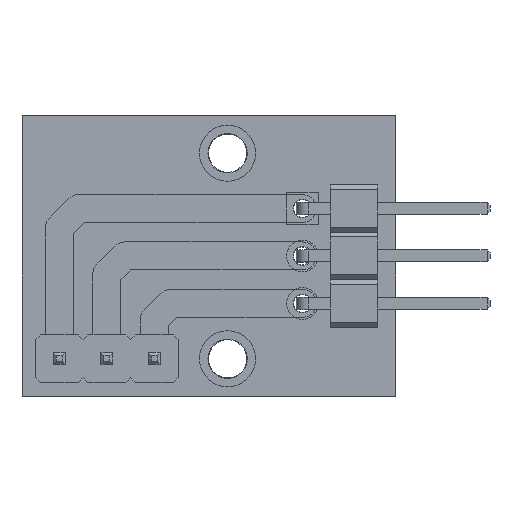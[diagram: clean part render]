
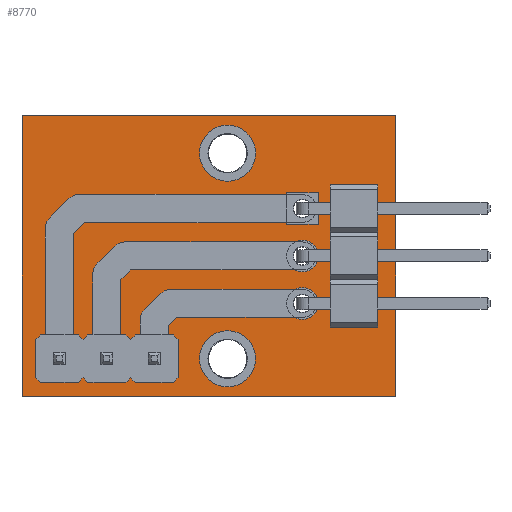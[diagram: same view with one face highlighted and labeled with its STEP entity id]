
A CAD part, top view. The second image highlights one B-rep face of the part: STEP entity #8770.
In plain terms, the highlighted planar face has unit normal (0, 0, 1).
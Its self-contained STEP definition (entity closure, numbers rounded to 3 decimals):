
#8570 = VERTEX_POINT('',#8571);
#8571 = CARTESIAN_POINT('',(124.,-97.,1.51));
#8577 = EDGE_CURVE('',#8570,#8578,#8580,.T.);
#8578 = VERTEX_POINT('',#8579);
#8579 = CARTESIAN_POINT('',(104.,-97.,1.51));
#8580 = LINE('',#8581,#8582);
#8581 = CARTESIAN_POINT('',(124.,-97.,1.51));
#8582 = VECTOR('',#8583,1.);
#8583 = DIRECTION('',(-1.,0.,0.));
#8610 = VERTEX_POINT('',#8611);
#8611 = CARTESIAN_POINT('',(124.,-82.,1.51));
#8617 = EDGE_CURVE('',#8610,#8570,#8618,.T.);
#8618 = LINE('',#8619,#8620);
#8619 = CARTESIAN_POINT('',(124.,-82.,1.51));
#8620 = VECTOR('',#8621,1.);
#8621 = DIRECTION('',(0.,-1.,0.));
#8639 = EDGE_CURVE('',#8578,#8640,#8642,.T.);
#8640 = VERTEX_POINT('',#8641);
#8641 = CARTESIAN_POINT('',(104.,-82.,1.51));
#8642 = LINE('',#8643,#8644);
#8643 = CARTESIAN_POINT('',(104.,-97.,1.51));
#8644 = VECTOR('',#8645,1.);
#8645 = DIRECTION('',(0.,1.,0.));
#8770 = ADVANCED_FACE('',(#8771,#8782,#8793,#8804,#8815,#8826,#8837,
    #8848,#8859),#8870,.T.);
#8771 = FACE_BOUND('',#8772,.T.);
#8772 = EDGE_LOOP('',(#8773,#8774,#8775,#8781));
#8773 = ORIENTED_EDGE('',*,*,#8577,.F.);
#8774 = ORIENTED_EDGE('',*,*,#8617,.F.);
#8775 = ORIENTED_EDGE('',*,*,#8776,.F.);
#8776 = EDGE_CURVE('',#8640,#8610,#8777,.T.);
#8777 = LINE('',#8778,#8779);
#8778 = CARTESIAN_POINT('',(104.,-82.,1.51));
#8779 = VECTOR('',#8780,1.);
#8780 = DIRECTION('',(1.,0.,0.));
#8781 = ORIENTED_EDGE('',*,*,#8639,.F.);
#8782 = FACE_BOUND('',#8783,.T.);
#8783 = EDGE_LOOP('',(#8784));
#8784 = ORIENTED_EDGE('',*,*,#8785,.T.);
#8785 = EDGE_CURVE('',#8786,#8786,#8788,.T.);
#8786 = VERTEX_POINT('',#8787);
#8787 = CARTESIAN_POINT('',(106.,-95.5,1.51));
#8788 = CIRCLE('',#8789,0.5);
#8789 = AXIS2_PLACEMENT_3D('',#8790,#8791,#8792);
#8790 = CARTESIAN_POINT('',(106.,-95.,1.51));
#8791 = DIRECTION('',(-0.,0.,-1.));
#8792 = DIRECTION('',(-0.,-1.,0.));
#8793 = FACE_BOUND('',#8794,.T.);
#8794 = EDGE_LOOP('',(#8795));
#8795 = ORIENTED_EDGE('',*,*,#8796,.T.);
#8796 = EDGE_CURVE('',#8797,#8797,#8799,.T.);
#8797 = VERTEX_POINT('',#8798);
#8798 = CARTESIAN_POINT('',(108.54,-95.5,1.51));
#8799 = CIRCLE('',#8800,0.5);
#8800 = AXIS2_PLACEMENT_3D('',#8801,#8802,#8803);
#8801 = CARTESIAN_POINT('',(108.54,-95.,1.51));
#8802 = DIRECTION('',(-0.,0.,-1.));
#8803 = DIRECTION('',(-0.,-1.,0.));
#8804 = FACE_BOUND('',#8805,.T.);
#8805 = EDGE_LOOP('',(#8806));
#8806 = ORIENTED_EDGE('',*,*,#8807,.T.);
#8807 = EDGE_CURVE('',#8808,#8808,#8810,.T.);
#8808 = VERTEX_POINT('',#8809);
#8809 = CARTESIAN_POINT('',(111.08,-95.5,1.51));
#8810 = CIRCLE('',#8811,0.5);
#8811 = AXIS2_PLACEMENT_3D('',#8812,#8813,#8814);
#8812 = CARTESIAN_POINT('',(111.08,-95.,1.51));
#8813 = DIRECTION('',(-0.,0.,-1.));
#8814 = DIRECTION('',(-0.,-1.,0.));
#8815 = FACE_BOUND('',#8816,.T.);
#8816 = EDGE_LOOP('',(#8817));
#8817 = ORIENTED_EDGE('',*,*,#8818,.T.);
#8818 = EDGE_CURVE('',#8819,#8819,#8821,.T.);
#8819 = VERTEX_POINT('',#8820);
#8820 = CARTESIAN_POINT('',(115.,-96.05,1.51));
#8821 = CIRCLE('',#8822,1.05);
#8822 = AXIS2_PLACEMENT_3D('',#8823,#8824,#8825);
#8823 = CARTESIAN_POINT('',(115.,-95.,1.51));
#8824 = DIRECTION('',(-0.,0.,-1.));
#8825 = DIRECTION('',(-0.,-1.,0.));
#8826 = FACE_BOUND('',#8827,.T.);
#8827 = EDGE_LOOP('',(#8828));
#8828 = ORIENTED_EDGE('',*,*,#8829,.T.);
#8829 = EDGE_CURVE('',#8830,#8830,#8832,.T.);
#8830 = VERTEX_POINT('',#8831);
#8831 = CARTESIAN_POINT('',(119.,-92.54,1.51));
#8832 = CIRCLE('',#8833,0.5);
#8833 = AXIS2_PLACEMENT_3D('',#8834,#8835,#8836);
#8834 = CARTESIAN_POINT('',(119.,-92.04,1.51));
#8835 = DIRECTION('',(-0.,0.,-1.));
#8836 = DIRECTION('',(-0.,-1.,0.));
#8837 = FACE_BOUND('',#8838,.T.);
#8838 = EDGE_LOOP('',(#8839));
#8839 = ORIENTED_EDGE('',*,*,#8840,.T.);
#8840 = EDGE_CURVE('',#8841,#8841,#8843,.T.);
#8841 = VERTEX_POINT('',#8842);
#8842 = CARTESIAN_POINT('',(119.,-90.,1.51));
#8843 = CIRCLE('',#8844,0.5);
#8844 = AXIS2_PLACEMENT_3D('',#8845,#8846,#8847);
#8845 = CARTESIAN_POINT('',(119.,-89.5,1.51));
#8846 = DIRECTION('',(-0.,0.,-1.));
#8847 = DIRECTION('',(-0.,-1.,0.));
#8848 = FACE_BOUND('',#8849,.T.);
#8849 = EDGE_LOOP('',(#8850));
#8850 = ORIENTED_EDGE('',*,*,#8851,.T.);
#8851 = EDGE_CURVE('',#8852,#8852,#8854,.T.);
#8852 = VERTEX_POINT('',#8853);
#8853 = CARTESIAN_POINT('',(119.,-87.46,1.51));
#8854 = CIRCLE('',#8855,0.5);
#8855 = AXIS2_PLACEMENT_3D('',#8856,#8857,#8858);
#8856 = CARTESIAN_POINT('',(119.,-86.96,1.51));
#8857 = DIRECTION('',(-0.,0.,-1.));
#8858 = DIRECTION('',(-0.,-1.,0.));
#8859 = FACE_BOUND('',#8860,.T.);
#8860 = EDGE_LOOP('',(#8861));
#8861 = ORIENTED_EDGE('',*,*,#8862,.T.);
#8862 = EDGE_CURVE('',#8863,#8863,#8865,.T.);
#8863 = VERTEX_POINT('',#8864);
#8864 = CARTESIAN_POINT('',(115.,-85.05,1.51));
#8865 = CIRCLE('',#8866,1.05);
#8866 = AXIS2_PLACEMENT_3D('',#8867,#8868,#8869);
#8867 = CARTESIAN_POINT('',(115.,-84.,1.51));
#8868 = DIRECTION('',(-0.,0.,-1.));
#8869 = DIRECTION('',(-0.,-1.,0.));
#8870 = PLANE('',#8871);
#8871 = AXIS2_PLACEMENT_3D('',#8872,#8873,#8874);
#8872 = CARTESIAN_POINT('',(0.,0.,1.51));
#8873 = DIRECTION('',(0.,0.,1.));
#8874 = DIRECTION('',(1.,0.,-0.));
